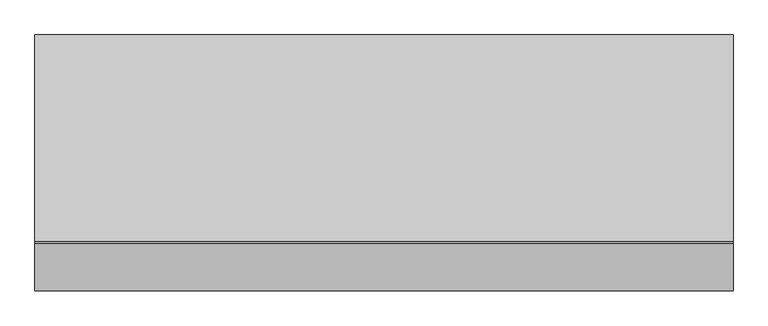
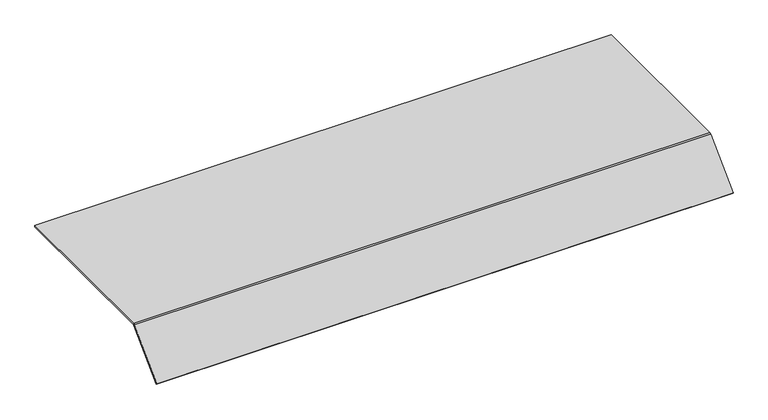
"""IFC4 building model written with IfcOpenShell, lengths in millimetres: proxy geometry, Electrical_Installation_Hager_Blank-Cover-800mm-Single-Sided-Height-70mm : Electrical_Installation_Hager_Blank-Cover-800mm-Single-Sided-Height-70mm."""

from ifc_helpers import new_model, si_unit, point, frame, frame_2d, origin, place, context, project, spatial, polyline, circle_curve, trimmed, segment, composite_curve, outline, extrude, source, transform, mapped, element, save


def electrical_fixtures_c1a48e14(model_context):
    return source(origin(), model_context, "Body", "SweptSolid", [
        extrude(outline(composite_curve([segment(polyline([(150.0, 40.5), (150.0, 37.5), (-149.8229541, 37.5)]), True, "CONTINUOUS"), segment(trimmed(circle_curve(frame_2d((-149.8229541, 36.0725733)), 1.4274267), [point((-149.8229541, 37.5))], [point((-150.8322972, 37.0819164))], True, "CARTESIAN"), True, "CONTINUOUS"), segment(polyline([(-150.8322972, 37.0819164), (-218.6627596, -30.7485461), (-220.78408, -28.6272257), (-152.8206472, 39.336207)]), True, "CONTINUOUS"), segment(trimmed(circle_curve(frame_2d((-150.0110025, 36.5265623)), 3.9734377), [point((-152.8206472, 39.336207))], [point((-150.0110025, 40.5))], False, "CARTESIAN"), True, "CONTINUOUS"), segment(polyline([(-150.0110025, 40.5), (150.0, 40.5)]), True, "CONTINUOUS")], self_intersect=False)), frame((0.0, 0.0, 0.0), z_axis=(1.0, 0.0, 0.0), x_axis=(0.0, 1.0, 0.0)), (0.0, 0.0, 1.0), 1011.627961),
    ])


if __name__ == "__main__":
    model = new_model("IFC4")
    model_context = context("Model", 3, world=origin())
    ifc_project = project(units=[si_unit("LENGTHUNIT", "METRE", prefix="MILLI")], contexts=[model_context])
    site = spatial("IfcSite", under=ifc_project)
    building = spatial("IfcBuilding", under=site)
    placement = place(None, origin())
    electrical_fixtures_shape = electrical_fixtures_c1a48e14(model_context)
    element("IfcBuildingElementProxy", 1, Name="Electrical_Installation_Hager_Blank-Cover-800mm-Single-Sided-Height-70mm : Electrical_Installation_Hager_Blank-Cover-800mm-Single-Sided-Height-70mm", ObjectType="Electrical_Installation_Hager_Blank-Cover-800mm-Single-Sided-Height-70mm : Electrical_Installation_Hager_Blank-Cover-800mm-Single-Sided-Height-70mm", at=placement, inside=building, context=model_context, shape_type="MappedRepresentation", body=[
        mapped(electrical_fixtures_shape, transform((0.0, 0.0, 0.0), x_axis=(1.0, 0.0, 0.0), y_axis=(0.0, 1.0, 0.0), z_axis=(0.0, 0.0, 1.0))),
    ])
    save(model, "model.ifc")
